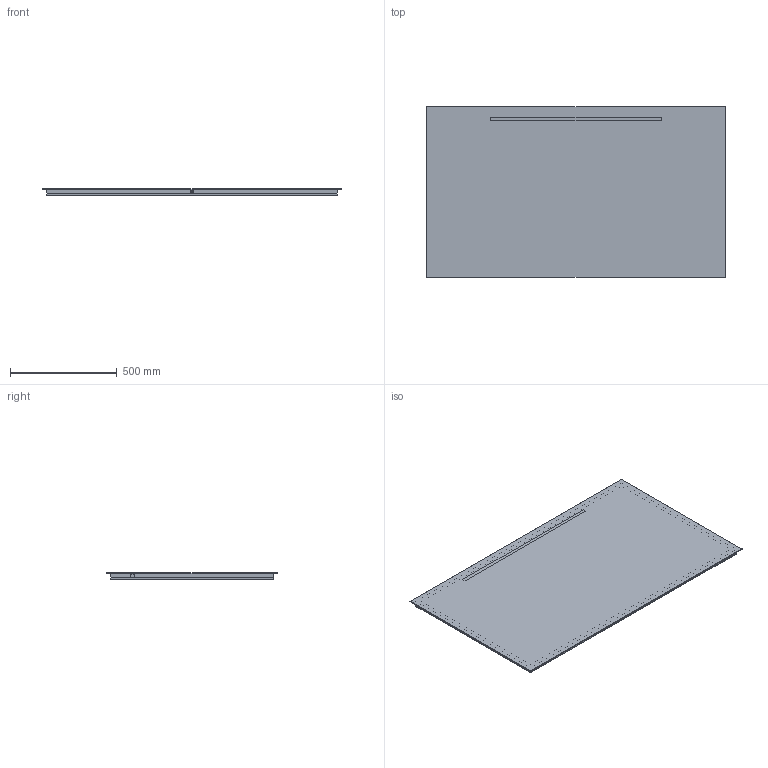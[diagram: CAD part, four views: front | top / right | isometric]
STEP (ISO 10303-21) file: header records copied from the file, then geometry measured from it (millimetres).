
FILE_DESCRIPTION (( 'STEP AP203' ), '1' );
FILE_NAME ('SPIEGEL MODEL 13 140CM.STEP', '2016-07-14T09:47:26', ( '' ), ( '' ), 'SwSTEP 2.0', 'SolidWorks 2016', '' );
FILE_SCHEMA (( 'CONFIG_CONTROL_DESIGN' ));
Length unit declared in the file: millimetre
Products named in the file (1): SPIEGEL MODEL 13 140CM
Bounding box: 1400 x 800 x 30 mm (x, y, z)
Volume: 6091524.6 mm3; surface area: 2488138.6 mm2
Topology: 2 solids, 2 shells, 69 faces, 148 edges, 90 vertices
Faces by surface type: plane 59, cylinder 8, torus 2
Entity records: 1893 total; most frequent: DIRECTION 308, CARTESIAN_POINT 308, ORIENTED_EDGE 296, EDGE_CURVE 148, VECTOR 128, LINE 128, AXIS2_PLACEMENT_3D 90, VERTEX_POINT 90
